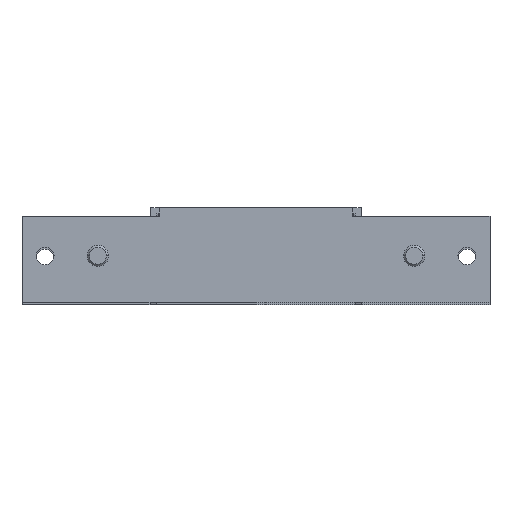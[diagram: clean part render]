
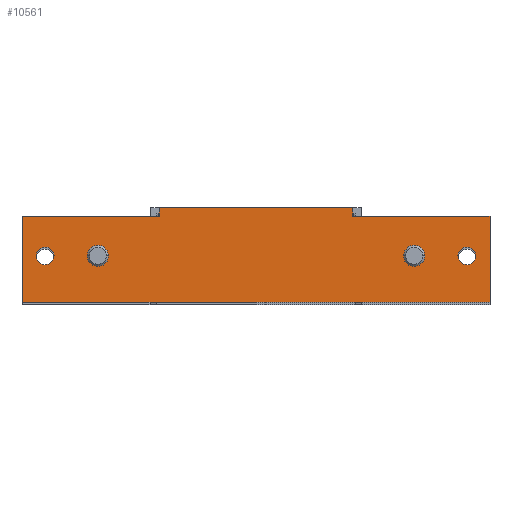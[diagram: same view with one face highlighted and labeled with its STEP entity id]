
A CAD part, top view. The second image highlights one B-rep face of the part: STEP entity #10561.
In plain terms, the highlighted planar face has unit normal (0, 0, 1).
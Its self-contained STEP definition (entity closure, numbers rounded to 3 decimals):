
#1066 = VERTEX_POINT('',#1067);
#1067 = CARTESIAN_POINT('',(-47.9,-11.5,148.5));
#1073 = EDGE_CURVE('',#1074,#1066,#1076,.T.);
#1074 = VERTEX_POINT('',#1075);
#1075 = CARTESIAN_POINT('',(-52.1,-11.5,148.5));
#1076 = CIRCLE('',#1077,2.1);
#1077 = AXIS2_PLACEMENT_3D('',#1078,#1079,#1080);
#1078 = CARTESIAN_POINT('',(-50.,-11.5,148.5));
#1079 = DIRECTION('',(0.,0.,1.));
#1080 = DIRECTION('',(1.,0.,-0.));
#1108 = VERTEX_POINT('',#1109);
#1109 = CARTESIAN_POINT('',(39.6,-11.5,148.5));
#1115 = EDGE_CURVE('',#1116,#1108,#1118,.T.);
#1116 = VERTEX_POINT('',#1117);
#1117 = CARTESIAN_POINT('',(35.4,-11.5,148.5));
#1118 = CIRCLE('',#1119,2.1);
#1119 = AXIS2_PLACEMENT_3D('',#1120,#1121,#1122);
#1120 = CARTESIAN_POINT('',(37.5,-11.5,148.5));
#1121 = DIRECTION('',(0.,0.,1.));
#1122 = DIRECTION('',(-1.,0.,0.));
#1150 = VERTEX_POINT('',#1151);
#1151 = CARTESIAN_POINT('',(52.1,-11.5,148.5));
#1157 = EDGE_CURVE('',#1158,#1150,#1160,.T.);
#1158 = VERTEX_POINT('',#1159);
#1159 = CARTESIAN_POINT('',(47.9,-11.5,148.5));
#1160 = CIRCLE('',#1161,2.1);
#1161 = AXIS2_PLACEMENT_3D('',#1162,#1163,#1164);
#1162 = CARTESIAN_POINT('',(50.,-11.5,148.5));
#1163 = DIRECTION('',(0.,0.,1.));
#1164 = DIRECTION('',(-1.,0.,0.));
#1192 = VERTEX_POINT('',#1193);
#1193 = CARTESIAN_POINT('',(-35.4,-11.5,148.5));
#1199 = EDGE_CURVE('',#1200,#1192,#1202,.T.);
#1200 = VERTEX_POINT('',#1201);
#1201 = CARTESIAN_POINT('',(-39.6,-11.5,148.5));
#1202 = CIRCLE('',#1203,2.1);
#1203 = AXIS2_PLACEMENT_3D('',#1204,#1205,#1206);
#1204 = CARTESIAN_POINT('',(-37.5,-11.5,148.5));
#1205 = DIRECTION('',(0.,0.,1.));
#1206 = DIRECTION('',(1.,0.,-0.));
#4307 = VERTEX_POINT('',#4308);
#4308 = CARTESIAN_POINT('',(-22.9,0.,148.5));
#4314 = EDGE_CURVE('',#4315,#4307,#4317,.T.);
#4315 = VERTEX_POINT('',#4316);
#4316 = CARTESIAN_POINT('',(22.9,0.,148.5));
#4317 = LINE('',#4318,#4319);
#4318 = CARTESIAN_POINT('',(-25.,0.,148.5));
#4319 = VECTOR('',#4320,1.);
#4320 = DIRECTION('',(-1.,0.,0.));
#10502 = VERTEX_POINT('',#10503);
#10503 = CARTESIAN_POINT('',(22.9,-2.1,148.5));
#10518 = EDGE_CURVE('',#10502,#4315,#10519,.T.);
#10519 = LINE('',#10520,#10521);
#10520 = CARTESIAN_POINT('',(22.9,-2.1,148.5));
#10521 = VECTOR('',#10522,1.);
#10522 = DIRECTION('',(-0.,1.,0.));
#10542 = VERTEX_POINT('',#10543);
#10543 = CARTESIAN_POINT('',(-22.9,-2.1,148.5));
#10549 = EDGE_CURVE('',#10542,#4307,#10550,.T.);
#10550 = LINE('',#10551,#10552);
#10551 = CARTESIAN_POINT('',(-22.9,0.,148.5));
#10552 = VECTOR('',#10553,1.);
#10553 = DIRECTION('',(0.,1.,0.));
#10561 = ADVANCED_FACE('',(#10562,#10572,#10582,#10592,#10602),#10645,
  .T.);
#10562 = FACE_BOUND('',#10563,.T.);
#10563 = EDGE_LOOP('',(#10564,#10571));
#10564 = ORIENTED_EDGE('',*,*,#10565,.F.);
#10565 = EDGE_CURVE('',#1066,#1074,#10566,.T.);
#10566 = CIRCLE('',#10567,2.1);
#10567 = AXIS2_PLACEMENT_3D('',#10568,#10569,#10570);
#10568 = CARTESIAN_POINT('',(-50.,-11.5,148.5));
#10569 = DIRECTION('',(0.,0.,1.));
#10570 = DIRECTION('',(1.,0.,-0.));
#10571 = ORIENTED_EDGE('',*,*,#1073,.F.);
#10572 = FACE_BOUND('',#10573,.T.);
#10573 = EDGE_LOOP('',(#10574,#10581));
#10574 = ORIENTED_EDGE('',*,*,#10575,.F.);
#10575 = EDGE_CURVE('',#1108,#1116,#10576,.T.);
#10576 = CIRCLE('',#10577,2.1);
#10577 = AXIS2_PLACEMENT_3D('',#10578,#10579,#10580);
#10578 = CARTESIAN_POINT('',(37.5,-11.5,148.5));
#10579 = DIRECTION('',(0.,0.,1.));
#10580 = DIRECTION('',(-1.,0.,0.));
#10581 = ORIENTED_EDGE('',*,*,#1115,.F.);
#10582 = FACE_BOUND('',#10583,.T.);
#10583 = EDGE_LOOP('',(#10584,#10591));
#10584 = ORIENTED_EDGE('',*,*,#10585,.F.);
#10585 = EDGE_CURVE('',#1150,#1158,#10586,.T.);
#10586 = CIRCLE('',#10587,2.1);
#10587 = AXIS2_PLACEMENT_3D('',#10588,#10589,#10590);
#10588 = CARTESIAN_POINT('',(50.,-11.5,148.5));
#10589 = DIRECTION('',(0.,0.,1.));
#10590 = DIRECTION('',(-1.,0.,0.));
#10591 = ORIENTED_EDGE('',*,*,#1157,.F.);
#10592 = FACE_BOUND('',#10593,.T.);
#10593 = EDGE_LOOP('',(#10594,#10601));
#10594 = ORIENTED_EDGE('',*,*,#10595,.F.);
#10595 = EDGE_CURVE('',#1192,#1200,#10596,.T.);
#10596 = CIRCLE('',#10597,2.1);
#10597 = AXIS2_PLACEMENT_3D('',#10598,#10599,#10600);
#10598 = CARTESIAN_POINT('',(-37.5,-11.5,148.5));
#10599 = DIRECTION('',(0.,0.,1.));
#10600 = DIRECTION('',(1.,0.,-0.));
#10601 = ORIENTED_EDGE('',*,*,#1199,.F.);
#10602 = FACE_BOUND('',#10603,.T.);
#10603 = EDGE_LOOP('',(#10604,#10614,#10622,#10628,#10629,#10630,#10631,
    #10639));
#10604 = ORIENTED_EDGE('',*,*,#10605,.F.);
#10605 = EDGE_CURVE('',#10606,#10608,#10610,.T.);
#10606 = VERTEX_POINT('',#10607);
#10607 = CARTESIAN_POINT('',(55.5,-22.5,148.5));
#10608 = VERTEX_POINT('',#10609);
#10609 = CARTESIAN_POINT('',(-55.5,-22.5,148.5));
#10610 = LINE('',#10611,#10612);
#10611 = CARTESIAN_POINT('',(-22.9,-22.5,148.5));
#10612 = VECTOR('',#10613,1.);
#10613 = DIRECTION('',(-1.,0.,-0.));
#10614 = ORIENTED_EDGE('',*,*,#10615,.F.);
#10615 = EDGE_CURVE('',#10616,#10606,#10618,.T.);
#10616 = VERTEX_POINT('',#10617);
#10617 = CARTESIAN_POINT('',(55.5,-2.1,148.5));
#10618 = LINE('',#10619,#10620);
#10619 = CARTESIAN_POINT('',(55.5,-19.5,148.5));
#10620 = VECTOR('',#10621,1.);
#10621 = DIRECTION('',(0.,-1.,-0.));
#10622 = ORIENTED_EDGE('',*,*,#10623,.F.);
#10623 = EDGE_CURVE('',#10502,#10616,#10624,.T.);
#10624 = LINE('',#10625,#10626);
#10625 = CARTESIAN_POINT('',(22.9,-2.1,148.5));
#10626 = VECTOR('',#10627,1.);
#10627 = DIRECTION('',(1.,0.,0.));
#10628 = ORIENTED_EDGE('',*,*,#10518,.T.);
#10629 = ORIENTED_EDGE('',*,*,#4314,.T.);
#10630 = ORIENTED_EDGE('',*,*,#10549,.F.);
#10631 = ORIENTED_EDGE('',*,*,#10632,.T.);
#10632 = EDGE_CURVE('',#10542,#10633,#10635,.T.);
#10633 = VERTEX_POINT('',#10634);
#10634 = CARTESIAN_POINT('',(-55.5,-2.1,148.5));
#10635 = LINE('',#10636,#10637);
#10636 = CARTESIAN_POINT('',(-22.9,-2.1,148.5));
#10637 = VECTOR('',#10638,1.);
#10638 = DIRECTION('',(-1.,0.,0.));
#10639 = ORIENTED_EDGE('',*,*,#10640,.T.);
#10640 = EDGE_CURVE('',#10633,#10608,#10641,.T.);
#10641 = LINE('',#10642,#10643);
#10642 = CARTESIAN_POINT('',(-55.5,-19.5,148.5));
#10643 = VECTOR('',#10644,1.);
#10644 = DIRECTION('',(-0.,-1.,-0.));
#10645 = PLANE('',#10646);
#10646 = AXIS2_PLACEMENT_3D('',#10647,#10648,#10649);
#10647 = CARTESIAN_POINT('',(0.,0.,
    148.5));
#10648 = DIRECTION('',(0.,0.,1.));
#10649 = DIRECTION('',(0.,-1.,0.));
